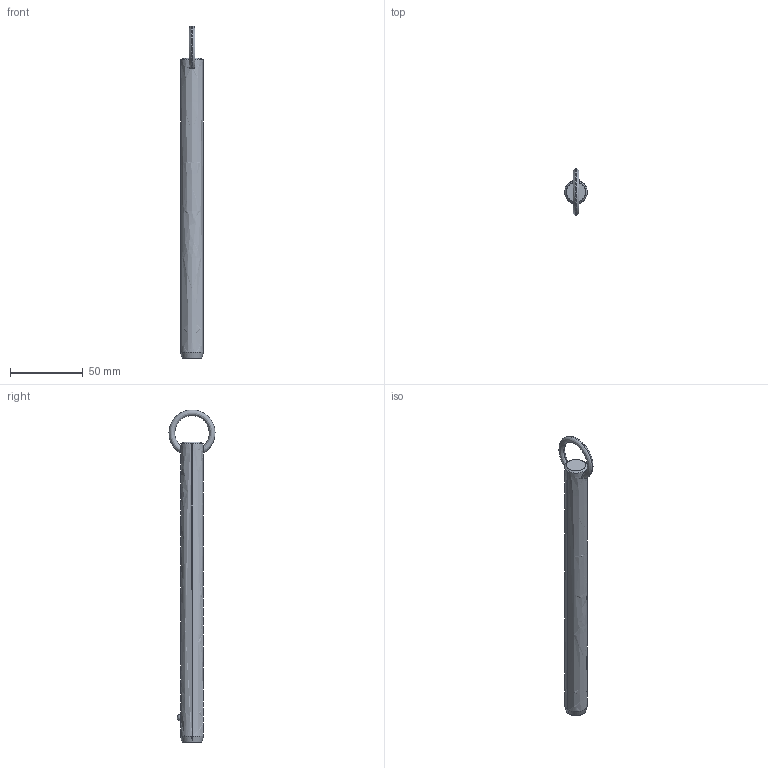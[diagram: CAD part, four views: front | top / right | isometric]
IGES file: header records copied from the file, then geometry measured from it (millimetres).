
Start section: SolidWorks IGES file using analytic representation for surfaces
Global section: file name: C:\Users\liam_\OneDrive\Documents\WORK\Work for WixRoyd\Job Files\J-00019 - Matt Davis CAD Checking\04. CAD Drawings\automotion20190605\P1250.2_v2\P1250.2_v2_20190729_IGES\P1250.062-700.igs; native system: SolidWorks 2017; preprocessor: SolidWorks 2017; author: liam_; date: 190729.234358; units: millimetre
Bounding box: 15.8 x 31.69 x 228.48 mm (x, y, z)
Surface area: 11414 mm2 (no closed solid volume)
Topology: 0 solids, 0 shells, 12 faces, 292 edges, 290 vertices
Faces by surface type: revolution 8, bspline 4
